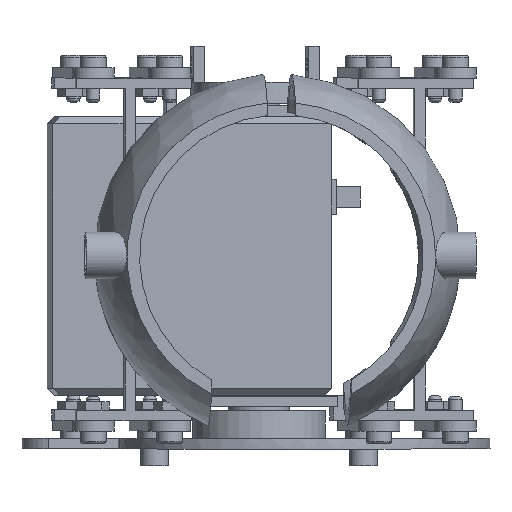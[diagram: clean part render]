
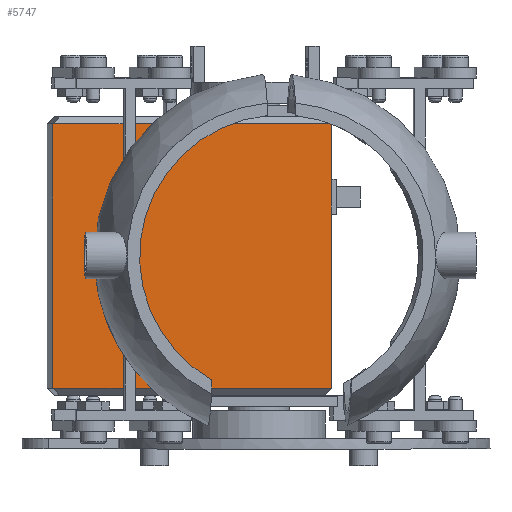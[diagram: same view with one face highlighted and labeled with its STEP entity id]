
A CAD part, front view. The second image highlights one B-rep face of the part: STEP entity #5747.
In plain terms, the highlighted planar face has unit normal (0.041, -0.999, -0.001) as drawn and (0, 0, -1) by its records, which use the part's own axes.
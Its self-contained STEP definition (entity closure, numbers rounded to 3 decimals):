
#874=FACE_OUTER_BOUND('',#1186,.T.);
#1186=EDGE_LOOP('',(#4005,#4006,#4007,#4008));
#1667=LINE('',#8719,#2141);
#1677=LINE('',#8738,#2151);
#1680=LINE('',#8744,#2154);
#1681=LINE('',#8745,#2155);
#2141=VECTOR('',#6899,10.);
#2151=VECTOR('',#6917,10.);
#2154=VECTOR('',#6922,10.);
#2155=VECTOR('',#6923,10.);
#2607=VERTEX_POINT('',#8716);
#2608=VERTEX_POINT('',#8718);
#2613=VERTEX_POINT('',#8737);
#2615=VERTEX_POINT('',#8743);
#3160=EDGE_CURVE('',#2607,#2608,#1667,.T.);
#3170=EDGE_CURVE('',#2613,#2608,#1677,.T.);
#3173=EDGE_CURVE('',#2615,#2607,#1680,.T.);
#3174=EDGE_CURVE('',#2613,#2615,#1681,.T.);
#4005=ORIENTED_EDGE('',*,*,#3160,.F.);
#4006=ORIENTED_EDGE('',*,*,#3173,.F.);
#4007=ORIENTED_EDGE('',*,*,#3174,.F.);
#4008=ORIENTED_EDGE('',*,*,#3170,.T.);
#5558=PLANE('',#6193);
#5747=ADVANCED_FACE('',(#874),#5558,.F.);
#6193=AXIS2_PLACEMENT_3D('',#8742,#6920,#6921);
#6899=DIRECTION('',(1.,0.,0.));
#6917=DIRECTION('',(0.,-1.,0.));
#6920=DIRECTION('center_axis',(0.,0.,1.));
#6921=DIRECTION('ref_axis',(0.,-1.,0.));
#6922=DIRECTION('',(0.,-1.,0.));
#6923=DIRECTION('',(-1.,0.,0.));
#8716=CARTESIAN_POINT('',(0.,1.,0.));
#8718=CARTESIAN_POINT('',(40.,1.,0.));
#8719=CARTESIAN_POINT('',(20.,1.,0.));
#8737=CARTESIAN_POINT('',(40.,39.,0.));
#8738=CARTESIAN_POINT('',(40.,20.,0.));
#8742=CARTESIAN_POINT('Origin',(20.,20.,0.));
#8743=CARTESIAN_POINT('',(0.,39.,0.));
#8744=CARTESIAN_POINT('',(0.,20.,0.));
#8745=CARTESIAN_POINT('',(20.,39.,0.));
